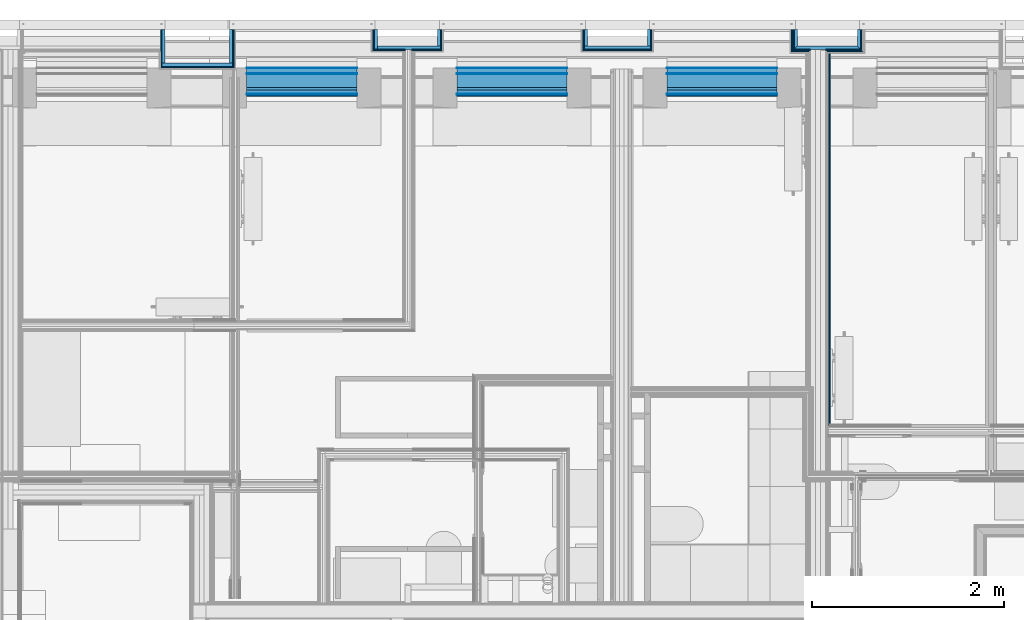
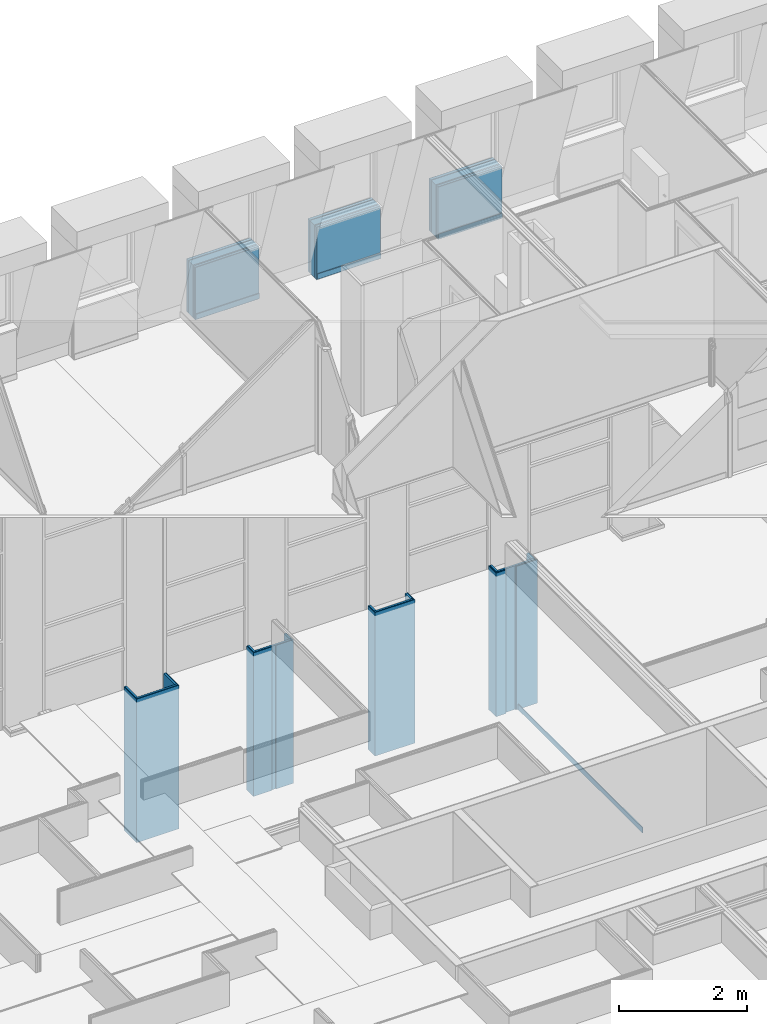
# One storey, part 33 of 169: 54 building element parts, 16 elements without a shape of their own.
"""IFC2X3 building model written with IfcOpenShell, lengths in metres."""

from ifc_helpers import new_model, entity, si_unit, converted_unit, derived_unit, money_unit, direction, frame, frame_2d, origin_with_axes, place, context, subcontext, project, spatial, polyline, rectangle, outline, extrude, material, type_object, element, aggregate, save


model = new_model("IFC2X3")

# Units and contexts
model_context = context("Model", 3, precision=1e-05, world=origin_with_axes(), true_north=direction((0.0, 1.0)))
body_context = subcontext(model_context, "Body", "Model", "MODEL_VIEW", scale=1.0)
ifc_project = project(units=[si_unit("LENGTHUNIT", "METRE"), si_unit("AREAUNIT", "SQUARE_METRE"), si_unit("VOLUMEUNIT", "CUBIC_METRE"), si_unit("ABSORBEDDOSEUNIT", "GRAY"), si_unit("AMOUNTOFSUBSTANCEUNIT", "MOLE"), si_unit("DOSEEQUIVALENTUNIT", "SIEVERT"), si_unit("ELECTRICCAPACITANCEUNIT", "FARAD"), si_unit("ELECTRICCHARGEUNIT", "COULOMB"), si_unit("ELECTRICCONDUCTANCEUNIT", "SIEMENS"), si_unit("ELECTRICCURRENTUNIT", "AMPERE"), si_unit("ELECTRICRESISTANCEUNIT", "OHM"), si_unit("ELECTRICVOLTAGEUNIT", "VOLT"), si_unit("ENERGYUNIT", "JOULE"), si_unit("FORCEUNIT", "NEWTON"), si_unit("FREQUENCYUNIT", "HERTZ"), si_unit("ILLUMINANCEUNIT", "LUX"), si_unit("INDUCTANCEUNIT", "HENRY"), si_unit("LUMINOUSFLUXUNIT", "LUMEN"), si_unit("LUMINOUSINTENSITYUNIT", "CANDELA"), si_unit("MAGNETICFLUXDENSITYUNIT", "TESLA"), si_unit("MAGNETICFLUXUNIT", "WEBER"), si_unit("MASSUNIT", "GRAM"), converted_unit("PLANEANGLEUNIT", "degree", entity("IfcReal", 0.0174532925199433), si_unit("PLANEANGLEUNIT", "RADIAN"), dimensions=[0, 0, 0, 0, 0, 0, 0]), si_unit("POWERUNIT", "WATT"), si_unit("PRESSUREUNIT", "PASCAL"), si_unit("RADIOACTIVITYUNIT", "BECQUEREL"), si_unit("SOLIDANGLEUNIT", "STERADIAN"), si_unit("THERMODYNAMICTEMPERATUREUNIT", "KELVIN"), si_unit("TIMEUNIT", "SECOND"), derived_unit("ACCELERATIONUNIT", [(si_unit("LENGTHUNIT", "METRE"), 1), (si_unit("TIMEUNIT", "SECOND"), -2)]), derived_unit("ANGULARVELOCITYUNIT", [(converted_unit("PLANEANGLEUNIT", "degree", entity("IfcReal", 0.0174532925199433), si_unit("PLANEANGLEUNIT", "RADIAN"), dimensions=[0, 0, 0, 0, 0, 0, 0]), 1), (si_unit("TIMEUNIT", "SECOND"), -1)]), derived_unit("CURVATUREUNIT", [(converted_unit("PLANEANGLEUNIT", "degree", entity("IfcReal", 0.0174532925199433), si_unit("PLANEANGLEUNIT", "RADIAN"), dimensions=[0, 0, 0, 0, 0, 0, 0]), 1), (si_unit("LENGTHUNIT", "METRE"), -1)]), derived_unit("DYNAMICVISCOSITYUNIT", [(si_unit("PRESSUREUNIT", "PASCAL"), 1), (si_unit("TIMEUNIT", "SECOND"), 1)]), derived_unit("HEATFLUXDENSITYUNIT", [(si_unit("POWERUNIT", "WATT"), 1), (si_unit("LENGTHUNIT", "METRE"), -2)]), derived_unit("HEATINGVALUEUNIT", [(si_unit("ENERGYUNIT", "JOULE"), 1), (si_unit("MASSUNIT", "GRAM"), -1)]), derived_unit("INTEGERCOUNTRATEUNIT", [(si_unit("TIMEUNIT", "SECOND"), -1)]), derived_unit("IONCONCENTRATIONUNIT", [(si_unit("MASSUNIT", "GRAM"), 1), (si_unit("VOLUMEUNIT", "CUBIC_METRE"), -1)]), derived_unit("ISOTHERMALMOISTURECAPACITYUNIT", [(si_unit("VOLUMEUNIT", "CUBIC_METRE"), 1), (si_unit("MASSUNIT", "GRAM"), -1)]), derived_unit("KINEMATICVISCOSITYUNIT", [(si_unit("AREAUNIT", "SQUARE_METRE"), 1), (si_unit("TIMEUNIT", "SECOND"), -1)]), derived_unit("LINEARFORCEUNIT", [(si_unit("FORCEUNIT", "NEWTON"), 1), (si_unit("LENGTHUNIT", "METRE"), -1)]), derived_unit("LINEARMOMENTUNIT", [(si_unit("FORCEUNIT", "NEWTON"), 1), (si_unit("LENGTHUNIT", "METRE"), -1)]), derived_unit("LINEARSTIFFNESSUNIT", [(si_unit("FORCEUNIT", "NEWTON"), 1), (si_unit("LENGTHUNIT", "METRE"), -1)]), derived_unit("LINEARVELOCITYUNIT", [(si_unit("LENGTHUNIT", "METRE"), 1), (si_unit("TIMEUNIT", "SECOND"), -1)]), derived_unit("LUMINOUSINTENSITYDISTRIBUTIONUNIT", [(si_unit("LUMINOUSINTENSITYUNIT", "CANDELA"), 1), (si_unit("LUMINOUSFLUXUNIT", "LUMEN"), -1)]), derived_unit("MASSDENSITYUNIT", [(si_unit("MASSUNIT", "GRAM"), 1), (si_unit("VOLUMEUNIT", "CUBIC_METRE"), -1)]), derived_unit("MASSFLOWRATEUNIT", [(si_unit("MASSUNIT", "GRAM"), 1), (si_unit("TIMEUNIT", "SECOND"), -1)]), derived_unit("MASSPERLENGTHUNIT", [(si_unit("MASSUNIT", "GRAM"), 1), (si_unit("LENGTHUNIT", "METRE"), -1)]), derived_unit("MODULUSOFELASTICITYUNIT", [(si_unit("FORCEUNIT", "NEWTON"), 1), (si_unit("AREAUNIT", "SQUARE_METRE"), -1)]), derived_unit("MODULUSOFLINEARSUBGRADEREACTIONUNIT", [(si_unit("FORCEUNIT", "NEWTON"), 1), (si_unit("LENGTHUNIT", "METRE"), -2)]), derived_unit("MODULUSOFROTATIONALSUBGRADEREACTIONUNIT", [(si_unit("FORCEUNIT", "NEWTON"), 1), (si_unit("LENGTHUNIT", "METRE"), 1)]), derived_unit("MODULUSOFSUBGRADEREACTIONUNIT", [(si_unit("FORCEUNIT", "NEWTON"), 1), (si_unit("VOLUMEUNIT", "CUBIC_METRE"), -1)]), derived_unit("MOISTUREDIFFUSIVITYUNIT", [(si_unit("VOLUMEUNIT", "CUBIC_METRE"), 1), (si_unit("TIMEUNIT", "SECOND"), -1)]), derived_unit("MOLECULARWEIGHTUNIT", [(si_unit("MASSUNIT", "GRAM"), 1), (si_unit("AMOUNTOFSUBSTANCEUNIT", "MOLE"), -1)]), derived_unit("PLANARFORCEUNIT", [(si_unit("FORCEUNIT", "NEWTON"), 1), (si_unit("LENGTHUNIT", "METRE"), -2)]), derived_unit("ROTATIONALFREQUENCYUNIT", [(si_unit("TIMEUNIT", "SECOND"), -1)]), derived_unit("ROTATIONALMASSUNIT", [(si_unit("MASSUNIT", "GRAM"), 1), (si_unit("LENGTHUNIT", "METRE"), 2)]), derived_unit("ROTATIONALSTIFFNESSUNIT", [(si_unit("FORCEUNIT", "NEWTON"), 1), (si_unit("LENGTHUNIT", "METRE"), 1), (converted_unit("PLANEANGLEUNIT", "degree", entity("IfcReal", 0.0174532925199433), si_unit("PLANEANGLEUNIT", "RADIAN"), dimensions=[0, 0, 0, 0, 0, 0, 0]), -1)]), derived_unit("SECTIONAREAINTEGRALUNIT", [(si_unit("LENGTHUNIT", "METRE"), 5)]), derived_unit("SECTIONMODULUSUNIT", [(si_unit("LENGTHUNIT", "METRE"), 3)]), derived_unit("SHEARMODULUSUNIT", [(si_unit("FORCEUNIT", "NEWTON"), 1), (si_unit("AREAUNIT", "SQUARE_METRE"), -1)]), derived_unit("SOUNDPOWERUNIT", [(si_unit("ENERGYUNIT", "JOULE"), 1), (si_unit("TIMEUNIT", "SECOND"), -1)]), derived_unit("SPECIFICHEATCAPACITYUNIT", [(si_unit("FORCEUNIT", "NEWTON"), 1), (si_unit("MASSUNIT", "GRAM"), -1), (si_unit("THERMODYNAMICTEMPERATUREUNIT", "KELVIN"), -1)]), derived_unit("TEMPERATUREGRADIENTUNIT", [(si_unit("THERMODYNAMICTEMPERATUREUNIT", "KELVIN"), 1), (si_unit("LENGTHUNIT", "METRE"), -1)]), derived_unit("THERMALADMITTANCEUNIT", [(si_unit("POWERUNIT", "WATT"), 1), (si_unit("AREAUNIT", "SQUARE_METRE"), -1), (si_unit("THERMODYNAMICTEMPERATUREUNIT", "KELVIN"), -1)]), derived_unit("THERMALCONDUCTANCEUNIT", [(si_unit("POWERUNIT", "WATT"), 1), (si_unit("LENGTHUNIT", "METRE"), -1), (si_unit("THERMODYNAMICTEMPERATUREUNIT", "KELVIN"), -1)]), derived_unit("THERMALEXPANSIONCOEFFICIENTUNIT", [(si_unit("THERMODYNAMICTEMPERATUREUNIT", "KELVIN"), -1)]), derived_unit("THERMALRESISTANCEUNIT", [(si_unit("AREAUNIT", "SQUARE_METRE"), 1), (si_unit("POWERUNIT", "WATT"), -1)]), derived_unit("THERMALTRANSMITTANCEUNIT", [(si_unit("POWERUNIT", "WATT"), 1), (si_unit("AREAUNIT", "SQUARE_METRE"), -1), (si_unit("THERMODYNAMICTEMPERATUREUNIT", "KELVIN"), -1)]), derived_unit("TORQUEUNIT", [(si_unit("FORCEUNIT", "NEWTON"), 1), (si_unit("LENGTHUNIT", "METRE"), 1)]), derived_unit("VAPORPERMEABILITYUNIT", [(si_unit("MASSUNIT", "GRAM"), 1), (si_unit("TIMEUNIT", "SECOND"), -1)]), derived_unit("VOLUMETRICFLOWRATEUNIT", [(si_unit("VOLUMEUNIT", "CUBIC_METRE"), 1), (si_unit("TIMEUNIT", "SECOND"), -1)]), derived_unit("WARPINGCONSTANTUNIT", [(si_unit("LENGTHUNIT", "METRE"), 6)]), derived_unit("WARPINGMOMENTUNIT", [(si_unit("FORCEUNIT", "NEWTON"), 1), (si_unit("LENGTHUNIT", "METRE"), 2)]), money_unit("GBP")], contexts=[model_context])

# Site, building, storey
site_placement = place(None, origin_with_axes())
site = spatial("IfcSite", under=ifc_project, at=site_placement, Name="Site", CompositionType="ELEMENT")
building_placement = place(site_placement, origin_with_axes())
building = spatial("IfcBuilding", under=site, at=building_placement, Name="Building01", CompositionType="ELEMENT")
storey_placement = place(building_placement, frame((0.0, 0.0, 5.15), z_axis=(0.0, 0.0, 1.0), x_axis=(1.0, 0.0, 0.0)))
storey = spatial("IfcBuildingStorey", under=building, at=storey_placement, Name="1F", CompositionType="ELEMENT", Elevation=5.15)

# Wall, building element part
wall_type_1 = type_object("IfcWallType", Name="SHE_A-Walls_Type01c_Partywall_225mm_twin_tall", PredefinedType="NOTDEFINED")
wall_1_placement = place(storey_placement, frame((15.620132, 8.82, 0.0), z_axis=(0.0, 0.0, 1.0), x_axis=(0.0, 1.0, 0.0)))
wall_1 = element("IfcWall", 1, at=wall_1_placement, inside=storey, type_object=wall_type_1, Name="1C", ObjectType="SHE_A-Walls_Type01c_Partywall_225mm_twin_tall")
ifc_material_1 = material(Name="A_BSUK_Walls_Timber")
building_element_part_1_placement = place(wall_1_placement, origin_with_axes())
building_element_part_1 = element("IfcBuildingElementPart", 2, at=building_element_part_1_placement, material=ifc_material_1, Name="2", context=body_context, shape_type="SweptSolid", body=[
    extrude(rectangle(XDim=3.887, YDim=0.015, at=frame_2d((3.7885, -0.0955), x_axis=(-1.0, 0.0))), frame((0.0, 0.0, 0.015), z_axis=(0.0, 0.0, 1.0), x_axis=(1.0, 0.0, 0.0)), (0.0, 0.0, 1.0), 0.1),
])
aggregate(wall_1, [building_element_part_1])

# Wall, building element parts
wall_type_2 = type_object("IfcWallType", Name="SHE_A-Walls_Type06f_ExternalWallInsulation_48+15mm", PredefinedType="NOTDEFINED")
wall_2_placement = place(storey_placement, frame((16.025, 14.8, 0.0), z_axis=(0.0, 0.0, 1.0), x_axis=(0.0, -1.0, 0.0)))
wall_2 = element("IfcWall", 3, at=wall_2_placement, inside=storey, type_object=wall_type_2, Name="6F", ObjectType="SHE_A-Walls_Type06f_ExternalWallInsulation_48+15mm")
ifc_material_2 = material(Name="A_BSUK_Insulation")
placement_1 = place(wall_2_placement, origin_with_axes())
building_element_part_2 = element("IfcBuildingElementPart", 4, at=placement_1, material=ifc_material_2, Name="1", context=body_context, shape_type="SweptSolid", body=[
    extrude(outline(polyline([(0.206, 0.018), (0.0, 0.018), (0.0, -0.018), (0.17, -0.018), (0.206, 0.018)])), origin_with_axes(), (0.0, 0.0, 1.0), 2.74),
])
ifc_material_3 = material(Name="A_BSUK_WallInternal_Finishes_Plasterboard")
building_element_part_3 = element("IfcBuildingElementPart", 5, at=placement_1, material=ifc_material_3, Name="2", context=body_context, shape_type="SweptSolid", body=[
    extrude(outline(polyline([(0.218, 0.03), (0.0, 0.03), (0.0, 0.018), (0.206, 0.018), (0.218, 0.03)])), origin_with_axes(), (0.0, 0.0, 1.0), 2.74),
])
aggregate(wall_2, [building_element_part_2, building_element_part_3])

wall_3_placement = place(storey_placement, frame((15.365, 14.612, 0.0), z_axis=(0.0, 0.0, 1.0), x_axis=(0.0, 1.0, 0.0)))
wall_3 = element("IfcWall", 6, at=wall_3_placement, inside=storey, type_object=wall_type_2, Name="6F", ObjectType="SHE_A-Walls_Type06f_ExternalWallInsulation_48+15mm")
placement_2 = place(wall_3_placement, origin_with_axes())
building_element_part_4 = element("IfcBuildingElementPart", 7, at=placement_2, material=ifc_material_2, Name="1", context=body_context, shape_type="SweptSolid", body=[
    extrude(outline(polyline([(-0.018, 0.018), (0.018, -0.018), (0.188, -0.018), (0.188, 0.018), (-0.018, 0.018)])), origin_with_axes(), (0.0, 0.0, 1.0), 2.74),
])
building_element_part_5 = element("IfcBuildingElementPart", 8, at=placement_2, material=ifc_material_3, Name="2", context=body_context, shape_type="SweptSolid", body=[
    extrude(outline(polyline([(-0.03, 0.03), (-0.018, 0.018), (0.188, 0.018), (0.188, 0.03), (-0.03, 0.03)])), origin_with_axes(), (0.0, 0.0, 1.0), 2.74),
])
building_element_part_6 = element("IfcBuildingElementPart", 9, at=placement_2, material=ifc_material_3, Name="3", context=body_context, shape_type="SweptSolid", body=[
    extrude(outline(polyline([(-0.045, 0.045), (-0.03, 0.03), (0.188, 0.03), (0.188, 0.045), (-0.045, 0.045)])), origin_with_axes(), (0.0, 0.0, 1.0), 2.74),
])
aggregate(wall_3, [building_element_part_4, building_element_part_5, building_element_part_6])

wall_4_placement = place(storey_placement, frame((16.025, 14.612, 0.0), z_axis=(0.0, 0.0, 1.0), x_axis=(-1.0, 0.0, 0.0)))
wall_4 = element("IfcWall", 10, at=wall_4_placement, inside=storey, type_object=wall_type_2, Name="6F", ObjectType="SHE_A-Walls_Type06f_ExternalWallInsulation_48+15mm")
placement_3 = place(wall_4_placement, origin_with_axes())
building_element_part_7 = element("IfcBuildingElementPart", 11, at=placement_3, material=ifc_material_2, Name="1", context=body_context, shape_type="SweptSolid", body=[
    extrude(outline(polyline([(0.678, 0.018), (-0.018, 0.018), (0.018, -0.018), (0.642, -0.018), (0.678, 0.018)])), origin_with_axes(), (0.0, 0.0, 1.0), 2.74),
])
building_element_part_8 = element("IfcBuildingElementPart", 12, at=placement_3, material=ifc_material_3, Name="2", context=body_context, shape_type="SweptSolid", body=[
    extrude(outline(polyline([(-0.03, 0.03), (-0.018, 0.018), (0.346868, 0.018), (0.346868, 0.03), (-0.03, 0.03)])), origin_with_axes(), (0.0, 0.0, 1.0), 2.74),
])
building_element_part_9 = element("IfcBuildingElementPart", 13, at=placement_3, material=ifc_material_3, Name="3", context=body_context, shape_type="SweptSolid", body=[
    extrude(outline(polyline([(0.69, 0.03), (0.511868, 0.03), (0.511868, 0.018), (0.678, 0.018), (0.69, 0.03)])), origin_with_axes(), (0.0, 0.0, 1.0), 2.74),
])
building_element_part_10 = element("IfcBuildingElementPart", 14, at=placement_3, material=ifc_material_3, Name="4", context=body_context, shape_type="SweptSolid", body=[
    extrude(outline(polyline([(-0.045, 0.045), (-0.03, 0.03), (0.331868, 0.03), (0.331868, 0.045), (-0.045, 0.045)])), origin_with_axes(), (0.0, 0.0, 1.0), 2.74),
])
building_element_part_11 = element("IfcBuildingElementPart", 15, at=placement_3, material=ifc_material_3, Name="5", context=body_context, shape_type="SweptSolid", body=[
    extrude(outline(polyline([(0.705, 0.045), (0.526868, 0.045), (0.526868, 0.03), (0.69, 0.03), (0.705, 0.045)])), origin_with_axes(), (0.0, 0.0, 1.0), 2.74),
])
aggregate(wall_4, [building_element_part_7, building_element_part_8, building_element_part_9, building_element_part_10, building_element_part_11])

wall_type_3 = type_object("IfcWallType", Name="SHE_A-Walls_Type06d_ExternalWallInsulation_48mm", PredefinedType="NOTDEFINED")
wall_5_placement = place(storey_placement, frame((13.817, 14.8, 0.0), z_axis=(0.0, 0.0, 1.0), x_axis=(0.0, -1.0, 0.0)))
wall_5 = element("IfcWall", 16, at=wall_5_placement, inside=storey, type_object=wall_type_3, Name="6D", ObjectType="SHE_A-Walls_Type06d_ExternalWallInsulation_48mm")
placement_4 = place(wall_5_placement, origin_with_axes())
building_element_part_12 = element("IfcBuildingElementPart", 17, at=placement_4, material=ifc_material_2, Name="1", context=body_context, shape_type="SweptSolid", body=[
    extrude(rectangle(XDim=0.17, YDim=0.036, at=frame_2d((0.085, 0.018), x_axis=(-1.0, 0.0))), origin_with_axes(), (0.0, 0.0, 1.0), 2.74),
])
building_element_part_13 = element("IfcBuildingElementPart", 18, at=placement_4, material=ifc_material_3, Name="2", context=body_context, shape_type="SweptSolid", body=[
    extrude(outline(polyline([(0.218, 0.048), (0.0, 0.048), (0.0, 0.035), (0.205, 0.035), (0.218, 0.048)])), origin_with_axes(), (0.0, 0.0, 1.0), 2.74),
])
aggregate(wall_5, [building_element_part_12, building_element_part_13])

wall_6_placement = place(storey_placement, frame((13.853, 14.63, 0.0), z_axis=(0.0, 0.0, 1.0), x_axis=(-1.0, 0.0, 0.0)))
wall_6 = element("IfcWall", 19, at=wall_6_placement, inside=storey, type_object=wall_type_3, Name="6D", ObjectType="SHE_A-Walls_Type06d_ExternalWallInsulation_48mm")
placement_5 = place(wall_6_placement, origin_with_axes())
building_element_part_14 = element("IfcBuildingElementPart", 20, at=placement_5, material=ifc_material_2, Name="1", context=body_context, shape_type="SweptSolid", body=[
    extrude(rectangle(XDim=0.696, YDim=0.036, at=frame_2d((0.348, 0.018), x_axis=(-1.0, 0.0))), origin_with_axes(), (0.0, 0.0, 1.0), 2.74),
])
building_element_part_15 = element("IfcBuildingElementPart", 21, at=placement_5, material=ifc_material_3, Name="2", context=body_context, shape_type="SweptSolid", body=[
    extrude(outline(polyline([(0.708, 0.048), (-0.012, 0.048), (0.001, 0.035), (0.695, 0.035), (0.708, 0.048)])), origin_with_axes(), (0.0, 0.0, 1.0), 2.74),
])
aggregate(wall_6, [building_element_part_14, building_element_part_15])

wall_7_placement = place(storey_placement, frame((13.193, 14.63, 0.0), z_axis=(0.0, 0.0, 1.0), x_axis=(0.0, 1.0, 0.0)))
wall_7 = element("IfcWall", 22, at=wall_7_placement, inside=storey, type_object=wall_type_3, Name="6D", ObjectType="SHE_A-Walls_Type06d_ExternalWallInsulation_48mm")
placement_6 = place(wall_7_placement, origin_with_axes())
building_element_part_16 = element("IfcBuildingElementPart", 23, at=placement_6, material=ifc_material_2, Name="1", context=body_context, shape_type="SweptSolid", body=[
    extrude(rectangle(XDim=0.17, YDim=0.036, at=frame_2d((0.085, 0.018), x_axis=(-1.0, 0.0))), origin_with_axes(), (0.0, 0.0, 1.0), 2.74),
])
building_element_part_17 = element("IfcBuildingElementPart", 24, at=placement_6, material=ifc_material_3, Name="2", context=body_context, shape_type="SweptSolid", body=[
    extrude(outline(polyline([(0.17, 0.048), (-0.048, 0.048), (-0.035, 0.035), (0.17, 0.035), (0.17, 0.048)])), origin_with_axes(), (0.0, 0.0, 1.0), 2.74),
])
aggregate(wall_7, [building_element_part_16, building_element_part_17])

wall_8_placement = place(storey_placement, frame((11.627, 14.8, 0.0), z_axis=(0.0, 0.0, 1.0), x_axis=(0.0, -1.0, 0.0)))
wall_8 = element("IfcWall", 25, at=wall_8_placement, inside=storey, type_object=wall_type_3, Name="6D", ObjectType="SHE_A-Walls_Type06d_ExternalWallInsulation_48mm")
placement_7 = place(wall_8_placement, origin_with_axes())
building_element_part_18 = element("IfcBuildingElementPart", 26, at=placement_7, material=ifc_material_2, Name="1", context=body_context, shape_type="SweptSolid", body=[
    extrude(rectangle(XDim=0.17, YDim=0.036, at=frame_2d((0.085, 0.018), x_axis=(-1.0, 0.0))), origin_with_axes(), (0.0, 0.0, 1.0), 2.74),
])
building_element_part_19 = element("IfcBuildingElementPart", 27, at=placement_7, material=ifc_material_3, Name="2", context=body_context, shape_type="SweptSolid", body=[
    extrude(outline(polyline([(0.218, 0.048), (0.0, 0.048), (0.0, 0.035), (0.205, 0.035), (0.218, 0.048)])), origin_with_axes(), (0.0, 0.0, 1.0), 2.74),
])
aggregate(wall_8, [building_element_part_18, building_element_part_19])

wall_9_placement = place(storey_placement, frame((11.663, 14.63, 0.0), z_axis=(0.0, 0.0, 1.0), x_axis=(-1.0, 0.0, 0.0)))
wall_9 = element("IfcWall", 28, at=wall_9_placement, inside=storey, type_object=wall_type_3, Name="6D", ObjectType="SHE_A-Walls_Type06d_ExternalWallInsulation_48mm")
placement_8 = place(wall_9_placement, origin_with_axes())
building_element_part_20 = element("IfcBuildingElementPart", 29, at=placement_8, material=ifc_material_2, Name="1", context=body_context, shape_type="SweptSolid", body=[
    extrude(rectangle(XDim=0.66, YDim=0.036, at=frame_2d((0.33, 0.018), x_axis=(-1.0, 0.0))), origin_with_axes(), (0.0, 0.0, 1.0), 2.74),
])
building_element_part_21 = element("IfcBuildingElementPart", 30, at=placement_8, material=ifc_material_3, Name="2", context=body_context, shape_type="SweptSolid", body=[
    extrude(outline(polyline([(0.3, 0.048), (-0.012, 0.048), (0.001, 0.035), (0.3, 0.035), (0.3, 0.048)])), origin_with_axes(), (0.0, 0.0, 1.0), 2.74),
])
building_element_part_22 = element("IfcBuildingElementPart", 31, at=placement_8, material=ifc_material_3, Name="3", context=body_context, shape_type="SweptSolid", body=[
    extrude(outline(polyline([(0.708, 0.048), (0.371, 0.048), (0.371, 0.035), (0.695, 0.035), (0.708, 0.048)])), origin_with_axes(), (0.0, 0.0, 1.0), 2.74),
])
aggregate(wall_9, [building_element_part_20, building_element_part_21, building_element_part_22])

wall_10_placement = place(storey_placement, frame((11.003, 14.8, 0.0), z_axis=(0.0, 0.0, 1.0), x_axis=(0.0, -1.0, 0.0)))
wall_10 = element("IfcWall", 32, at=wall_10_placement, inside=storey, type_object=wall_type_3, Name="6D", ObjectType="SHE_A-Walls_Type06d_ExternalWallInsulation_48mm")
placement_9 = place(wall_10_placement, origin_with_axes())
building_element_part_23 = element("IfcBuildingElementPart", 33, at=placement_9, material=ifc_material_3, Name="2", context=body_context, shape_type="SweptSolid", body=[
    extrude(outline(polyline([(0.205, -0.035), (0.0, -0.035), (0.0, -0.048), (0.218, -0.048), (0.205, -0.035)])), origin_with_axes(), (0.0, 0.0, 1.0), 2.74),
])
building_element_part_24 = element("IfcBuildingElementPart", 34, at=placement_9, material=ifc_material_2, Name="3", context=body_context, shape_type="SweptSolid", body=[
    extrude(rectangle(XDim=0.206, YDim=0.036, at=frame_2d((0.103, -0.018), x_axis=(-1.0, 0.0))), origin_with_axes(), (0.0, 0.0, 1.0), 2.74),
])
aggregate(wall_10, [building_element_part_23, building_element_part_24])

wall_11_placement = place(storey_placement, frame((9.46, 14.8, 0.0), z_axis=(0.0, 0.0, 1.0), x_axis=(0.0, -1.0, 0.0)))
wall_11 = element("IfcWall", 35, at=wall_11_placement, inside=storey, type_object=wall_type_3, Name="6D", ObjectType="SHE_A-Walls_Type06d_ExternalWallInsulation_48mm")
placement_10 = place(wall_11_placement, origin_with_axes())
building_element_part_25 = element("IfcBuildingElementPart", 36, at=placement_10, material=ifc_material_2, Name="1", context=body_context, shape_type="SweptSolid", body=[
    extrude(rectangle(XDim=0.35, YDim=0.036, at=frame_2d((0.175, 0.018), x_axis=(-1.0, 0.0))), origin_with_axes(), (0.0, 0.0, 1.0), 2.74),
])
building_element_part_26 = element("IfcBuildingElementPart", 37, at=placement_10, material=ifc_material_3, Name="2", context=body_context, shape_type="SweptSolid", body=[
    extrude(outline(polyline([(0.398, 0.048), (0.0, 0.048), (0.0, 0.035), (0.385, 0.035), (0.398, 0.048)])), origin_with_axes(), (0.0, 0.0, 1.0), 2.74),
])
aggregate(wall_11, [building_element_part_25, building_element_part_26])

wall_12_placement = place(storey_placement, frame((9.496, 14.45, 0.0), z_axis=(0.0, 0.0, 1.0), x_axis=(-1.0, 0.0, 0.0)))
wall_12 = element("IfcWall", 38, at=wall_12_placement, inside=storey, type_object=wall_type_3, Name="6D", ObjectType="SHE_A-Walls_Type06d_ExternalWallInsulation_48mm")
placement_11 = place(wall_12_placement, origin_with_axes())
building_element_part_27 = element("IfcBuildingElementPart", 39, at=placement_11, material=ifc_material_2, Name="1", context=body_context, shape_type="SweptSolid", body=[
    extrude(rectangle(XDim=0.742, YDim=0.036, at=frame_2d((0.371, 0.018), x_axis=(-1.0, 0.0))), origin_with_axes(), (0.0, 0.0, 1.0), 2.74),
])
building_element_part_28 = element("IfcBuildingElementPart", 40, at=placement_11, material=ifc_material_3, Name="2", context=body_context, shape_type="SweptSolid", body=[
    extrude(outline(polyline([(0.754, 0.048), (-0.012, 0.048), (0.001, 0.035), (0.741, 0.035), (0.754, 0.048)])), origin_with_axes(), (0.0, 0.0, 1.0), 2.74),
])
aggregate(wall_12, [building_element_part_27, building_element_part_28])

wall_13_placement = place(storey_placement, frame((8.79, 14.45, 0.0), z_axis=(0.0, 0.0, 1.0), x_axis=(0.0, 1.0, 0.0)))
wall_13 = element("IfcWall", 41, at=wall_13_placement, inside=storey, type_object=wall_type_3, Name="6D", ObjectType="SHE_A-Walls_Type06d_ExternalWallInsulation_48mm")
placement_12 = place(wall_13_placement, origin_with_axes())
building_element_part_29 = element("IfcBuildingElementPart", 42, at=placement_12, material=ifc_material_2, Name="1", context=body_context, shape_type="SweptSolid", body=[
    extrude(rectangle(XDim=0.35, YDim=0.036, at=frame_2d((0.175, 0.018), x_axis=(-1.0, 0.0))), origin_with_axes(), (0.0, 0.0, 1.0), 2.74),
])
building_element_part_30 = element("IfcBuildingElementPart", 43, at=placement_12, material=ifc_material_3, Name="2", context=body_context, shape_type="SweptSolid", body=[
    extrude(outline(polyline([(0.35, 0.048), (-0.048, 0.048), (-0.035, 0.035), (0.35, 0.035), (0.35, 0.048)])), origin_with_axes(), (0.0, 0.0, 1.0), 2.74),
])
aggregate(wall_13, [building_element_part_29, building_element_part_30])

wall_type_4 = type_object("IfcWallType", Name="SHE_A-Walls_Type06e_ExternalWallPenthouse_280mm", PredefinedType="NOTDEFINED")
wall_14_placement = place(storey_placement, frame((14.020024, 14.335061, 9.83), z_axis=(0.0, 0.0, 1.0), x_axis=(1.0, 0.0, 0.0)))
wall_14 = element("IfcWall", 44, at=wall_14_placement, inside=storey, type_object=wall_type_4, Name="6E", ObjectType="SHE_A-Walls_Type06e_ExternalWallPenthouse_280mm")
placement_13 = place(wall_14_placement, origin_with_axes())
building_element_part_31 = element("IfcBuildingElementPart", 45, at=placement_13, material=ifc_material_1, Name="1", context=body_context, shape_type="SweptSolid", body=[
    extrude(rectangle(XDim=1.149951, YDim=0.015, at=frame_2d((0.574976, -0.2225), x_axis=(-1.0, 0.0))), frame((0.0, 0.0, 0.015), z_axis=(0.0, 0.0, 1.0), x_axis=(1.0, 0.0, 0.0)), (0.0, 0.0, 1.0), 0.1),
])
building_element_part_32 = element("IfcBuildingElementPart", 46, at=placement_13, material=ifc_material_3, Name="2", context=body_context, shape_type="SweptSolid", body=[
    extrude(rectangle(XDim=1.149951, YDim=0.01, at=frame_2d((0.574976, -0.21), x_axis=(-1.0, 0.0))), origin_with_axes(), (0.0, 0.0, 1.0), 1.0),
])
building_element_part_33 = element("IfcBuildingElementPart", 47, at=placement_13, material=ifc_material_2, Name="3", context=body_context, shape_type="SweptSolid", body=[
    extrude(rectangle(XDim=1.149951, YDim=0.04, at=frame_2d((0.574976, -0.185), x_axis=(-1.0, 0.0))), origin_with_axes(), (0.0, 0.0, 1.0), 1.0),
])
ifc_material_4 = material(Name="Air Cavity")
building_element_part_34 = element("IfcBuildingElementPart", 48, at=placement_13, material=ifc_material_4, Name="4", context=body_context, shape_type="SweptSolid", body=[
    extrude(rectangle(XDim=1.149951, YDim=0.025, at=frame_2d((0.574976, -0.1525), x_axis=(-1.0, 0.0))), origin_with_axes(), (0.0, 0.0, 1.0), 1.0),
])
building_element_part_35 = element("IfcBuildingElementPart", 49, at=placement_13, material=ifc_material_2, Name="5", context=body_context, shape_type="SweptSolid", body=[
    extrude(rectangle(XDim=1.149951, YDim=0.14, at=frame_2d((0.574976, -0.07), x_axis=(-1.0, 0.0))), origin_with_axes(), (0.0, 0.0, 1.0), 1.0),
])
building_element_part_36 = element("IfcBuildingElementPart", 50, at=placement_13, material=ifc_material_1, Name="6", context=body_context, shape_type="SweptSolid", body=[
    extrude(rectangle(XDim=1.149951, YDim=0.01, at=frame_2d((0.574976, 0.005), x_axis=(-1.0, 0.0))), origin_with_axes(), (0.0, 0.0, 1.0), 1.0),
])
building_element_part_37 = element("IfcBuildingElementPart", 51, at=placement_13, material=ifc_material_4, Name="7", context=body_context, shape_type="SweptSolid", body=[
    extrude(rectangle(XDim=1.149951, YDim=0.05, at=frame_2d((0.574976, 0.035), x_axis=(-1.0, 0.0))), origin_with_axes(), (0.0, 0.0, 1.0), 1.0),
])
ifc_material_5 = material(Name="A_BSUK_WallInternal_Finishes_Metal")
building_element_part_38 = element("IfcBuildingElementPart", 52, at=placement_13, material=ifc_material_5, Name="8", context=body_context, shape_type="SweptSolid", body=[
    extrude(rectangle(XDim=1.149951, YDim=0.005, at=frame_2d((0.574976, 0.0625), x_axis=(-1.0, 0.0))), origin_with_axes(), (0.0, 0.0, 1.0), 1.0),
])
aggregate(wall_14, [building_element_part_31, building_element_part_32, building_element_part_33, building_element_part_34, building_element_part_35, building_element_part_36, building_element_part_37, building_element_part_38])

wall_15_placement = place(storey_placement, frame((11.830024, 14.335061, 9.83), z_axis=(0.0, 0.0, 1.0), x_axis=(1.0, 0.0, 0.0)))
wall_15 = element("IfcWall", 53, at=wall_15_placement, inside=storey, type_object=wall_type_4, Name="6E", ObjectType="SHE_A-Walls_Type06e_ExternalWallPenthouse_280mm")
placement_14 = place(wall_15_placement, origin_with_axes())
building_element_part_39 = element("IfcBuildingElementPart", 54, at=placement_14, material=ifc_material_1, Name="1", context=body_context, shape_type="SweptSolid", body=[
    extrude(rectangle(XDim=1.149951, YDim=0.015, at=frame_2d((0.574976, -0.2225), x_axis=(-1.0, 0.0))), frame((0.0, 0.0, 0.015), z_axis=(0.0, 0.0, 1.0), x_axis=(1.0, 0.0, 0.0)), (0.0, 0.0, 1.0), 0.1),
])
building_element_part_40 = element("IfcBuildingElementPart", 55, at=placement_14, material=ifc_material_3, Name="2", context=body_context, shape_type="SweptSolid", body=[
    extrude(rectangle(XDim=1.149951, YDim=0.01, at=frame_2d((0.574976, -0.21), x_axis=(-1.0, 0.0))), origin_with_axes(), (0.0, 0.0, 1.0), 1.0),
])
building_element_part_41 = element("IfcBuildingElementPart", 56, at=placement_14, material=ifc_material_2, Name="3", context=body_context, shape_type="SweptSolid", body=[
    extrude(rectangle(XDim=1.149951, YDim=0.04, at=frame_2d((0.574976, -0.185), x_axis=(-1.0, 0.0))), origin_with_axes(), (0.0, 0.0, 1.0), 1.0),
])
building_element_part_42 = element("IfcBuildingElementPart", 57, at=placement_14, material=ifc_material_4, Name="4", context=body_context, shape_type="SweptSolid", body=[
    extrude(rectangle(XDim=1.149951, YDim=0.025, at=frame_2d((0.574976, -0.1525), x_axis=(-1.0, 0.0))), origin_with_axes(), (0.0, 0.0, 1.0), 1.0),
])
building_element_part_43 = element("IfcBuildingElementPart", 58, at=placement_14, material=ifc_material_2, Name="5", context=body_context, shape_type="SweptSolid", body=[
    extrude(rectangle(XDim=1.149951, YDim=0.14, at=frame_2d((0.574976, -0.07), x_axis=(-1.0, 0.0))), origin_with_axes(), (0.0, 0.0, 1.0), 1.0),
])
building_element_part_44 = element("IfcBuildingElementPart", 59, at=placement_14, material=ifc_material_1, Name="6", context=body_context, shape_type="SweptSolid", body=[
    extrude(rectangle(XDim=1.149951, YDim=0.01, at=frame_2d((0.574976, 0.005), x_axis=(-1.0, 0.0))), origin_with_axes(), (0.0, 0.0, 1.0), 1.0),
])
building_element_part_45 = element("IfcBuildingElementPart", 60, at=placement_14, material=ifc_material_4, Name="7", context=body_context, shape_type="SweptSolid", body=[
    extrude(rectangle(XDim=1.149951, YDim=0.05, at=frame_2d((0.574976, 0.035), x_axis=(-1.0, 0.0))), origin_with_axes(), (0.0, 0.0, 1.0), 1.0),
])
building_element_part_46 = element("IfcBuildingElementPart", 61, at=placement_14, material=ifc_material_5, Name="8", context=body_context, shape_type="SweptSolid", body=[
    extrude(rectangle(XDim=1.149951, YDim=0.005, at=frame_2d((0.574976, 0.0625), x_axis=(-1.0, 0.0))), origin_with_axes(), (0.0, 0.0, 1.0), 1.0),
])
aggregate(wall_15, [building_element_part_39, building_element_part_40, building_element_part_41, building_element_part_42, building_element_part_43, building_element_part_44, building_element_part_45, building_element_part_46])

wall_16_placement = place(storey_placement, frame((9.640024, 14.335061, 9.83), z_axis=(0.0, 0.0, 1.0), x_axis=(1.0, 0.0, 0.0)))
wall_16 = element("IfcWall", 62, at=wall_16_placement, inside=storey, type_object=wall_type_4, Name="6E", ObjectType="SHE_A-Walls_Type06e_ExternalWallPenthouse_280mm")
placement_15 = place(wall_16_placement, origin_with_axes())
building_element_part_47 = element("IfcBuildingElementPart", 63, at=placement_15, material=ifc_material_1, Name="1", context=body_context, shape_type="SweptSolid", body=[
    extrude(rectangle(XDim=1.149951, YDim=0.015, at=frame_2d((0.574976, -0.2225), x_axis=(-1.0, 0.0))), frame((0.0, 0.0, 0.015), z_axis=(0.0, 0.0, 1.0), x_axis=(1.0, 0.0, 0.0)), (0.0, 0.0, 1.0), 0.1),
])
building_element_part_48 = element("IfcBuildingElementPart", 64, at=placement_15, material=ifc_material_3, Name="2", context=body_context, shape_type="SweptSolid", body=[
    extrude(rectangle(XDim=1.149951, YDim=0.01, at=frame_2d((0.574976, -0.21), x_axis=(-1.0, 0.0))), origin_with_axes(), (0.0, 0.0, 1.0), 1.0),
])
building_element_part_49 = element("IfcBuildingElementPart", 65, at=placement_15, material=ifc_material_2, Name="3", context=body_context, shape_type="SweptSolid", body=[
    extrude(rectangle(XDim=1.149951, YDim=0.04, at=frame_2d((0.574976, -0.185), x_axis=(-1.0, 0.0))), origin_with_axes(), (0.0, 0.0, 1.0), 1.0),
])
building_element_part_50 = element("IfcBuildingElementPart", 66, at=placement_15, material=ifc_material_4, Name="4", context=body_context, shape_type="SweptSolid", body=[
    extrude(rectangle(XDim=1.149951, YDim=0.025, at=frame_2d((0.574976, -0.1525), x_axis=(-1.0, 0.0))), origin_with_axes(), (0.0, 0.0, 1.0), 1.0),
])
building_element_part_51 = element("IfcBuildingElementPart", 67, at=placement_15, material=ifc_material_2, Name="5", context=body_context, shape_type="SweptSolid", body=[
    extrude(rectangle(XDim=1.149951, YDim=0.14, at=frame_2d((0.574976, -0.07), x_axis=(-1.0, 0.0))), origin_with_axes(), (0.0, 0.0, 1.0), 1.0),
])
building_element_part_52 = element("IfcBuildingElementPart", 68, at=placement_15, material=ifc_material_1, Name="6", context=body_context, shape_type="SweptSolid", body=[
    extrude(rectangle(XDim=1.149951, YDim=0.01, at=frame_2d((0.574976, 0.005), x_axis=(-1.0, 0.0))), origin_with_axes(), (0.0, 0.0, 1.0), 1.0),
])
building_element_part_53 = element("IfcBuildingElementPart", 69, at=placement_15, material=ifc_material_4, Name="7", context=body_context, shape_type="SweptSolid", body=[
    extrude(rectangle(XDim=1.149951, YDim=0.05, at=frame_2d((0.574976, 0.035), x_axis=(-1.0, 0.0))), origin_with_axes(), (0.0, 0.0, 1.0), 1.0),
])
building_element_part_54 = element("IfcBuildingElementPart", 70, at=placement_15, material=ifc_material_5, Name="8", context=body_context, shape_type="SweptSolid", body=[
    extrude(rectangle(XDim=1.149951, YDim=0.005, at=frame_2d((0.574976, 0.0625), x_axis=(-1.0, 0.0))), origin_with_axes(), (0.0, 0.0, 1.0), 1.0),
])
aggregate(wall_16, [building_element_part_47, building_element_part_48, building_element_part_49, building_element_part_50, building_element_part_51, building_element_part_52, building_element_part_53, building_element_part_54])

save(model, "model.ifc")
